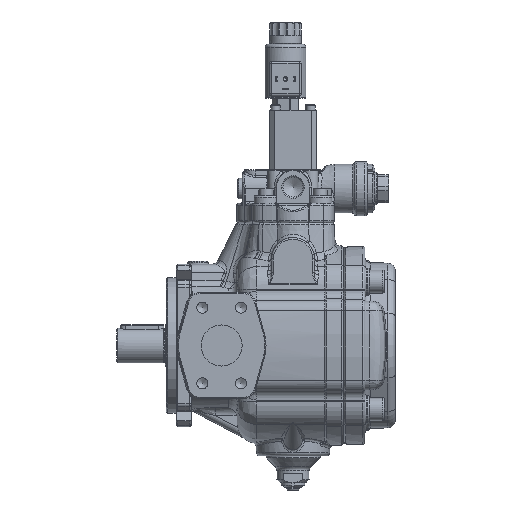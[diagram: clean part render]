
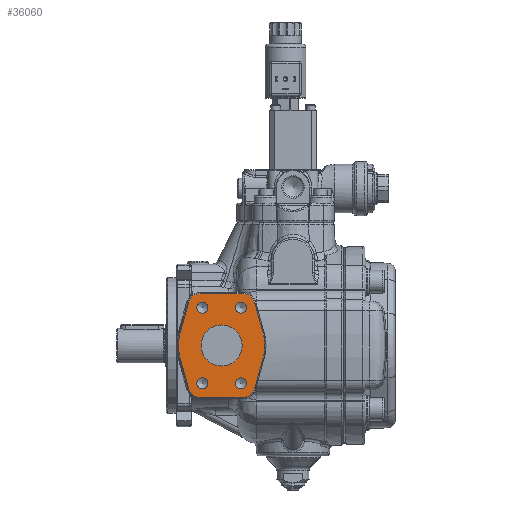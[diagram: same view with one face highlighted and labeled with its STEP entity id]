
A CAD part, left-side view. The second image highlights one B-rep face of the part: STEP entity #36060.
In plain terms, the highlighted planar face has unit normal (-1, 0, 0).
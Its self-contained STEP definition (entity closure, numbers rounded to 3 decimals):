
#2184=LINE('',#61947,#4325);
#2189=LINE('',#61961,#4330);
#2193=LINE('',#61975,#4334);
#2197=LINE('',#61987,#4338);
#2201=LINE('',#61999,#4342);
#2205=LINE('',#62011,#4346);
#4325=VECTOR('',#45860,10.);
#4330=VECTOR('',#45873,10.);
#4334=VECTOR('',#45887,10.);
#4338=VECTOR('',#45899,10.);
#4342=VECTOR('',#45911,10.);
#4346=VECTOR('',#45923,10.);
#5787=FACE_BOUND('',#9776,.T.);
#5788=FACE_BOUND('',#9777,.T.);
#5789=FACE_BOUND('',#9778,.T.);
#5790=FACE_BOUND('',#9779,.T.);
#5791=FACE_BOUND('',#9780,.T.);
#6288=PLANE('',#39072);
#7638=FACE_OUTER_BOUND('',#9775,.T.);
#9775=EDGE_LOOP('',(#27623,#27624,#27625,#27626,#27627,#27628,#27629,#27630,
#27631,#27632,#27633,#27634));
#9776=EDGE_LOOP('',(#27635));
#9777=EDGE_LOOP('',(#27636,#27637));
#9778=EDGE_LOOP('',(#27638,#27639));
#9779=EDGE_LOOP('',(#27640,#27641));
#9780=EDGE_LOOP('',(#27642,#27643));
#12716=CIRCLE('',#39037,11.);
#12718=CIRCLE('',#39041,40.);
#12721=CIRCLE('',#39046,11.);
#12723=CIRCLE('',#39050,11.);
#12725=CIRCLE('',#39054,40.);
#12727=CIRCLE('',#39058,11.);
#12732=CIRCLE('',#39073,19.);
#12733=CIRCLE('',#39074,5.053);
#12734=CIRCLE('',#39075,5.053);
#12735=CIRCLE('',#39076,5.053);
#12736=CIRCLE('',#39077,5.053);
#12737=CIRCLE('',#39078,5.053);
#12738=CIRCLE('',#39079,5.053);
#12739=CIRCLE('',#39080,5.053);
#12740=CIRCLE('',#39081,5.053);
#15412=VERTEX_POINT('',#61944);
#15413=VERTEX_POINT('',#61946);
#15416=VERTEX_POINT('',#61953);
#15418=VERTEX_POINT('',#61959);
#15420=VERTEX_POINT('',#61965);
#15423=VERTEX_POINT('',#61973);
#15425=VERTEX_POINT('',#61979);
#15427=VERTEX_POINT('',#61985);
#15429=VERTEX_POINT('',#61991);
#15431=VERTEX_POINT('',#61997);
#15433=VERTEX_POINT('',#62003);
#15435=VERTEX_POINT('',#62009);
#15475=VERTEX_POINT('',#62217);
#15476=VERTEX_POINT('',#62219);
#15477=VERTEX_POINT('',#62220);
#15478=VERTEX_POINT('',#62223);
#15479=VERTEX_POINT('',#62224);
#15480=VERTEX_POINT('',#62227);
#15481=VERTEX_POINT('',#62228);
#15482=VERTEX_POINT('',#62231);
#15483=VERTEX_POINT('',#62232);
#19672=EDGE_CURVE('',#15412,#15413,#2184,.T.);
#19676=EDGE_CURVE('',#15416,#15412,#12716,.T.);
#19679=EDGE_CURVE('',#15418,#15416,#2189,.T.);
#19682=EDGE_CURVE('',#15420,#15418,#12718,.T.);
#19686=EDGE_CURVE('',#15423,#15420,#2193,.T.);
#19689=EDGE_CURVE('',#15425,#15423,#12721,.T.);
#19692=EDGE_CURVE('',#15427,#15425,#2197,.T.);
#19695=EDGE_CURVE('',#15429,#15427,#12723,.T.);
#19698=EDGE_CURVE('',#15431,#15429,#2201,.T.);
#19701=EDGE_CURVE('',#15433,#15431,#12725,.T.);
#19704=EDGE_CURVE('',#15435,#15433,#2205,.T.);
#19706=EDGE_CURVE('',#15413,#15435,#12727,.T.);
#19754=EDGE_CURVE('',#15475,#15475,#12732,.T.);
#19755=EDGE_CURVE('',#15476,#15477,#12733,.T.);
#19756=EDGE_CURVE('',#15477,#15476,#12734,.T.);
#19757=EDGE_CURVE('',#15478,#15479,#12735,.T.);
#19758=EDGE_CURVE('',#15479,#15478,#12736,.T.);
#19759=EDGE_CURVE('',#15480,#15481,#12737,.T.);
#19760=EDGE_CURVE('',#15481,#15480,#12738,.T.);
#19761=EDGE_CURVE('',#15482,#15483,#12739,.T.);
#19762=EDGE_CURVE('',#15483,#15482,#12740,.T.);
#27623=ORIENTED_EDGE('',*,*,#19672,.F.);
#27624=ORIENTED_EDGE('',*,*,#19676,.F.);
#27625=ORIENTED_EDGE('',*,*,#19679,.F.);
#27626=ORIENTED_EDGE('',*,*,#19682,.F.);
#27627=ORIENTED_EDGE('',*,*,#19686,.F.);
#27628=ORIENTED_EDGE('',*,*,#19689,.F.);
#27629=ORIENTED_EDGE('',*,*,#19692,.F.);
#27630=ORIENTED_EDGE('',*,*,#19695,.F.);
#27631=ORIENTED_EDGE('',*,*,#19698,.F.);
#27632=ORIENTED_EDGE('',*,*,#19701,.F.);
#27633=ORIENTED_EDGE('',*,*,#19704,.F.);
#27634=ORIENTED_EDGE('',*,*,#19706,.F.);
#27635=ORIENTED_EDGE('',*,*,#19754,.T.);
#27636=ORIENTED_EDGE('',*,*,#19755,.T.);
#27637=ORIENTED_EDGE('',*,*,#19756,.T.);
#27638=ORIENTED_EDGE('',*,*,#19757,.T.);
#27639=ORIENTED_EDGE('',*,*,#19758,.T.);
#27640=ORIENTED_EDGE('',*,*,#19759,.T.);
#27641=ORIENTED_EDGE('',*,*,#19760,.T.);
#27642=ORIENTED_EDGE('',*,*,#19761,.T.);
#27643=ORIENTED_EDGE('',*,*,#19762,.T.);
#36060=ADVANCED_FACE('',(#7638,#5787,#5788,#5789,#5790,#5791),#6288,.F.);
#39037=AXIS2_PLACEMENT_3D('',#61955,#45866,#45867);
#39041=AXIS2_PLACEMENT_3D('',#61967,#45878,#45879);
#39046=AXIS2_PLACEMENT_3D('',#61981,#45892,#45893);
#39050=AXIS2_PLACEMENT_3D('',#61993,#45904,#45905);
#39054=AXIS2_PLACEMENT_3D('',#62005,#45916,#45917);
#39058=AXIS2_PLACEMENT_3D('',#62014,#45927,#45928);
#39072=AXIS2_PLACEMENT_3D('',#62216,#45970,#45971);
#39073=AXIS2_PLACEMENT_3D('',#62218,#45972,#45973);
#39074=AXIS2_PLACEMENT_3D('',#62221,#45974,#45975);
#39075=AXIS2_PLACEMENT_3D('',#62222,#45976,#45977);
#39076=AXIS2_PLACEMENT_3D('',#62225,#45978,#45979);
#39077=AXIS2_PLACEMENT_3D('',#62226,#45980,#45981);
#39078=AXIS2_PLACEMENT_3D('',#62229,#45982,#45983);
#39079=AXIS2_PLACEMENT_3D('',#62230,#45984,#45985);
#39080=AXIS2_PLACEMENT_3D('',#62233,#45986,#45987);
#39081=AXIS2_PLACEMENT_3D('',#62234,#45988,#45989);
#45860=DIRECTION('',(0.,1.,0.));
#45866=DIRECTION('center_axis',(1.,0.,0.));
#45867=DIRECTION('ref_axis',(0.,-0.964,-0.267));
#45873=DIRECTION('',(0.,0.267,-0.964));
#45878=DIRECTION('center_axis',(1.,0.,0.));
#45879=DIRECTION('ref_axis',(0.,-0.964,0.267));
#45887=DIRECTION('',(0.,-0.267,-0.964));
#45892=DIRECTION('center_axis',(1.,0.,0.));
#45893=DIRECTION('ref_axis',(0.,0.,1.));
#45899=DIRECTION('',(0.,-1.,0.));
#45904=DIRECTION('center_axis',(1.,0.,0.));
#45905=DIRECTION('ref_axis',(0.,0.964,0.267));
#45911=DIRECTION('',(0.,-0.267,0.964));
#45916=DIRECTION('center_axis',(1.,0.,0.));
#45917=DIRECTION('ref_axis',(0.,0.964,-0.267));
#45923=DIRECTION('',(0.,0.267,0.964));
#45927=DIRECTION('center_axis',(1.,0.,0.));
#45928=DIRECTION('ref_axis',(0.,0.,-1.));
#45970=DIRECTION('center_axis',(1.,0.,0.));
#45971=DIRECTION('ref_axis',(0.,0.,-1.));
#45972=DIRECTION('center_axis',(1.,0.,0.));
#45973=DIRECTION('ref_axis',(0.,-1.,0.));
#45974=DIRECTION('center_axis',(1.,0.,0.));
#45975=DIRECTION('ref_axis',(0.,0.,1.));
#45976=DIRECTION('center_axis',(1.,0.,0.));
#45977=DIRECTION('ref_axis',(0.,0.,1.));
#45978=DIRECTION('center_axis',(1.,0.,0.));
#45979=DIRECTION('ref_axis',(0.,0.,1.));
#45980=DIRECTION('center_axis',(1.,0.,0.));
#45981=DIRECTION('ref_axis',(0.,0.,1.));
#45982=DIRECTION('center_axis',(1.,0.,0.));
#45983=DIRECTION('ref_axis',(0.,0.,1.));
#45984=DIRECTION('center_axis',(1.,0.,0.));
#45985=DIRECTION('ref_axis',(0.,0.,1.));
#45986=DIRECTION('center_axis',(1.,0.,0.));
#45987=DIRECTION('ref_axis',(0.,0.,1.));
#45988=DIRECTION('center_axis',(1.,0.,0.));
#45989=DIRECTION('ref_axis',(0.,0.,1.));
#61944=CARTESIAN_POINT('',(-98.542,9.928,-57.476));
#61946=CARTESIAN_POINT('',(-98.542,49.628,-57.476));
#61947=CARTESIAN_POINT('',(-98.542,19.853,-57.476));
#61953=CARTESIAN_POINT('',(-98.542,-0.673,-49.41));
#61955=CARTESIAN_POINT('Origin',(-98.542,9.928,-46.476));
#61959=CARTESIAN_POINT('',(-98.542,-8.772,-20.145));
#61961=CARTESIAN_POINT('',(-98.542,-8.772,-20.145));
#61965=CARTESIAN_POINT('',(-98.542,-8.772,1.194));
#61967=CARTESIAN_POINT('Origin',(-98.542,29.778,-9.476));
#61973=CARTESIAN_POINT('',(-98.542,-0.673,30.458));
#61975=CARTESIAN_POINT('',(-98.542,-4.723,15.826));
#61979=CARTESIAN_POINT('',(-98.542,9.928,38.524));
#61981=CARTESIAN_POINT('Origin',(-98.542,9.928,27.524));
#61985=CARTESIAN_POINT('',(-98.542,49.628,38.524));
#61987=CARTESIAN_POINT('',(-98.542,39.703,38.524));
#61991=CARTESIAN_POINT('',(-98.542,60.23,30.458));
#61993=CARTESIAN_POINT('Origin',(-98.542,49.628,27.524));
#61997=CARTESIAN_POINT('',(-98.542,68.329,1.194));
#61999=CARTESIAN_POINT('',(-98.542,68.329,1.194));
#62003=CARTESIAN_POINT('',(-98.542,68.329,-20.145));
#62005=CARTESIAN_POINT('Origin',(-98.542,29.778,-9.476));
#62009=CARTESIAN_POINT('',(-98.542,60.23,-49.41));
#62011=CARTESIAN_POINT('',(-98.542,64.279,-34.777));
#62014=CARTESIAN_POINT('Origin',(-98.542,49.628,-46.476));
#62216=CARTESIAN_POINT('Origin',(-98.542,29.778,-9.476));
#62217=CARTESIAN_POINT('',(-98.542,48.778,-9.476));
#62218=CARTESIAN_POINT('Origin',(-98.542,29.778,-9.476));
#62219=CARTESIAN_POINT('',(-98.542,47.628,-39.373));
#62220=CARTESIAN_POINT('',(-98.542,47.628,-49.479));
#62221=CARTESIAN_POINT('Origin',(-98.542,47.628,-44.426));
#62222=CARTESIAN_POINT('Origin',(-98.542,47.628,-44.426));
#62223=CARTESIAN_POINT('',(-98.542,11.928,30.527));
#62224=CARTESIAN_POINT('',(-98.542,11.928,20.421));
#62225=CARTESIAN_POINT('Origin',(-98.542,11.928,25.474));
#62226=CARTESIAN_POINT('Origin',(-98.542,11.928,25.474));
#62227=CARTESIAN_POINT('',(-98.542,47.628,30.527));
#62228=CARTESIAN_POINT('',(-98.542,47.628,20.421));
#62229=CARTESIAN_POINT('Origin',(-98.542,47.628,25.474));
#62230=CARTESIAN_POINT('Origin',(-98.542,47.628,25.474));
#62231=CARTESIAN_POINT('',(-98.542,11.928,-39.373));
#62232=CARTESIAN_POINT('',(-98.542,11.928,-49.479));
#62233=CARTESIAN_POINT('Origin',(-98.542,11.928,-44.426));
#62234=CARTESIAN_POINT('Origin',(-98.542,11.928,-44.426));
